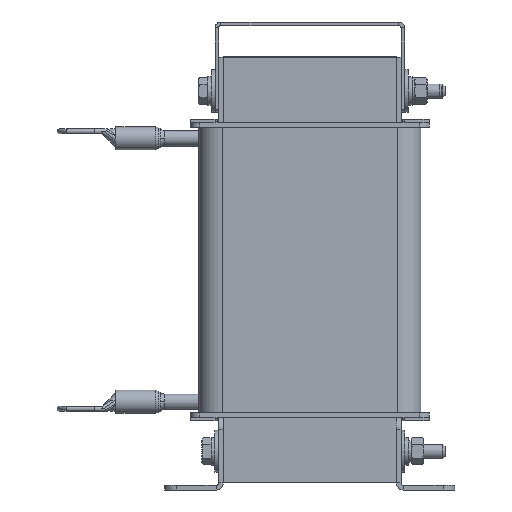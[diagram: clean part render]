
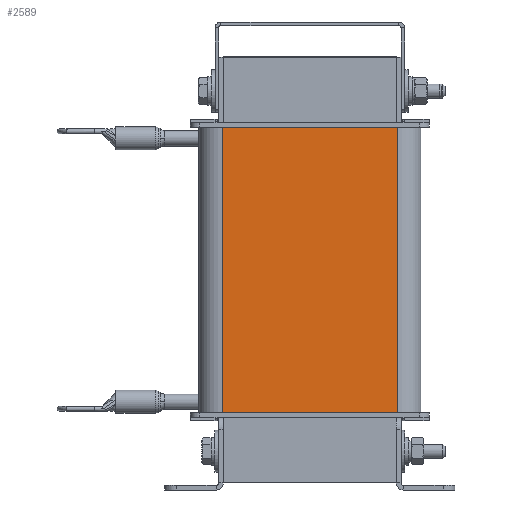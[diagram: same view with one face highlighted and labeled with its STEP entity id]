
A CAD part, left-side view. The second image highlights one B-rep face of the part: STEP entity #2589.
In plain terms, the highlighted planar face has unit normal (-1, 0, 0).
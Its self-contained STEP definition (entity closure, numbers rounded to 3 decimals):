
#2589=ADVANCED_FACE('',(#4383),#4385,.T.);
#4383=FACE_BOUND('',#4384,.T.);
#4384=EDGE_LOOP('',(#7233,#7234,#7235,#7236));
#4385=PLANE('',#4386);
#4386=AXIS2_PLACEMENT_3D('',#4387,#4388,#4389);
#4387=CARTESIAN_POINT('',(-27.,37.5,0.));
#4388=DIRECTION('',(-1.,0.,0.));
#4389=DIRECTION('',(0.,-1.,0.));
#7233=ORIENTED_EDGE('',*,*,#8182,.T.);
#7234=ORIENTED_EDGE('',*,*,#8210,.T.);
#7235=ORIENTED_EDGE('',*,*,#8199,.F.);
#7236=ORIENTED_EDGE('',*,*,#8211,.F.);
#8182=EDGE_CURVE('',#9155,#9152,#9156,.T.);
#8199=EDGE_CURVE('',#9187,#9189,#9190,.T.);
#8210=EDGE_CURVE('',#9152,#9189,#9205,.T.);
#8211=EDGE_CURVE('',#9155,#9187,#9206,.T.);
#9152=VERTEX_POINT('',#11197);
#9155=VERTEX_POINT('',#11203);
#9156=LINE('',#11204,#11205);
#9187=VERTEX_POINT('',#11272);
#9189=VERTEX_POINT('',#11277);
#9190=LINE('',#11278,#11279);
#9205=LINE('',#11316,#11317);
#9206=LINE('',#11319,#11320);
#11197=CARTESIAN_POINT('',(-27.,-37.5,0.));
#11203=CARTESIAN_POINT('',(-27.,37.5,0.));
#11204=CARTESIAN_POINT('',(-27.,37.5,0.));
#11205=VECTOR('',#11206,1.);
#11206=DIRECTION('',(0.,-1.,0.));
#11272=CARTESIAN_POINT('',(-27.,37.5,122.));
#11277=CARTESIAN_POINT('',(-27.,-37.5,122.));
#11278=CARTESIAN_POINT('',(-27.,37.5,122.));
#11279=VECTOR('',#11280,1.);
#11280=DIRECTION('',(0.,-1.,0.));
#11316=CARTESIAN_POINT('',(-27.,-37.5,0.));
#11317=VECTOR('',#11318,1.);
#11318=DIRECTION('',(0.,0.,1.));
#11319=CARTESIAN_POINT('',(-27.,37.5,0.));
#11320=VECTOR('',#11321,1.);
#11321=DIRECTION('',(0.,0.,1.));
